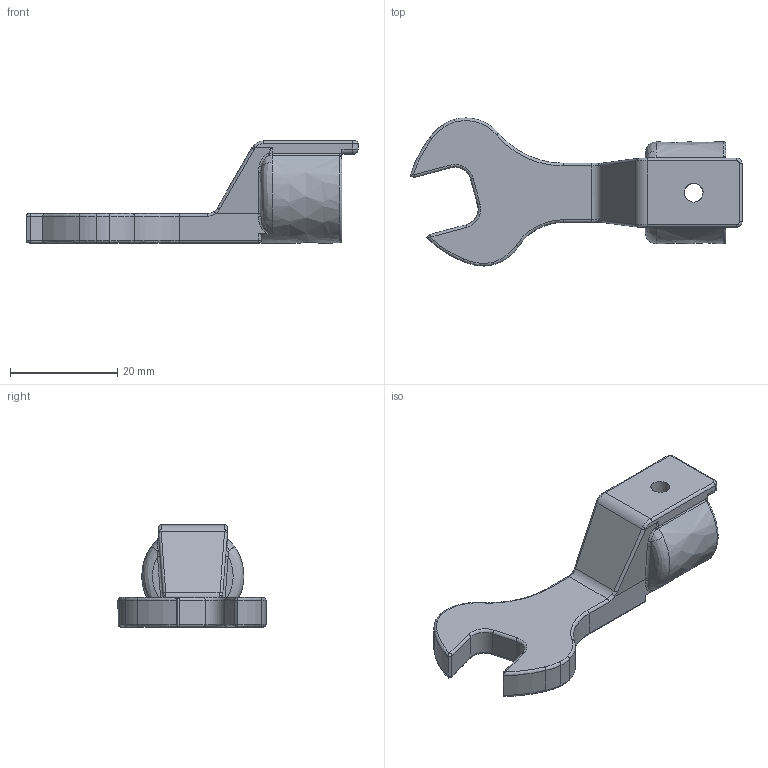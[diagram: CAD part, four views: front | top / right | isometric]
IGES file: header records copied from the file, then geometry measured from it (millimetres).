
Global section: file name: SH12DX11; native system: Autodesk Inventor 2016; preprocessor: unknown; author: Q532; date: 20151029.190419; units: millimetre
Bounding box: 61.79 x 27.56 x 19 mm (x, y, z)
Volume: 6751.3 mm3; surface area: 4000.7 mm2
Topology: 1 solids, 1 shells, 139 faces, 336 edges, 196 vertices
Faces by surface type: bspline 139
